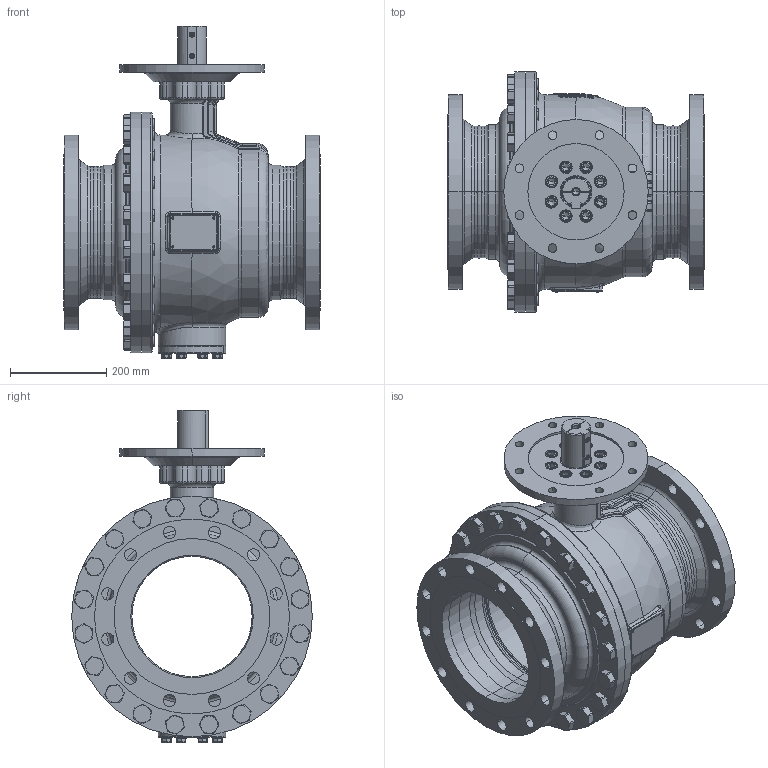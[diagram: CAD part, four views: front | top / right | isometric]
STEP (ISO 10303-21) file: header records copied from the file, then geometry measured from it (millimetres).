
FILE_DESCRIPTION((''),'2;1');
FILE_NAME('KHI-F_250_CL150-F25-P_SW0001','2026-02-05T14:36:54',('fischerkl'),('KLINGER'),'CREO PARAMETRIC BY PTC INC, 2023014','CREO PARAMETRIC BY PTC INC, 2023014','');
FILE_SCHEMA(('CONFIG_CONTROL_DESIGN'));
Products named in the file (1): KHI-F_250_CL150-F25-P_SW0001
Bounding box: 533 x 500 x 689.8 mm (x, y, z)
Volume: 22634607.2 mm3; surface area: 3411503.1 mm2
Topology: 1 solids, 4 shells, 3284 faces, 8297 edges, 5168 vertices
Faces by surface type: plane 1684, cylinder 770, cone 389, torus 314, bspline 97, sphere 30
Entity records: 134236 total; most frequent: CARTESIAN_POINT 56227, ORIENTED_EDGE 16534, DIRECTION 16036, EDGE_CURVE 8267, AXIS2_PLACEMENT_3D 6060, VERTEX_POINT 5168, VECTOR 3916, LINE 3916
